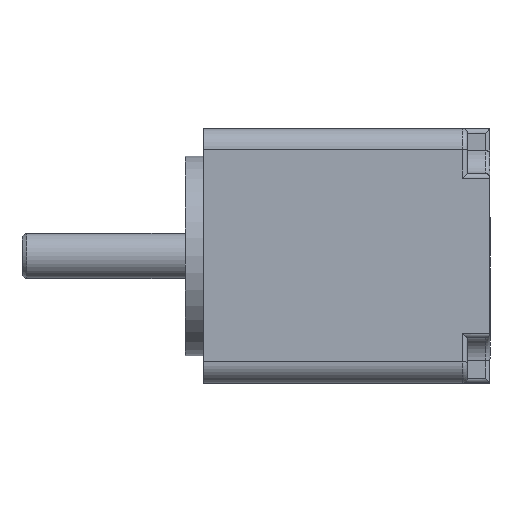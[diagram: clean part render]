
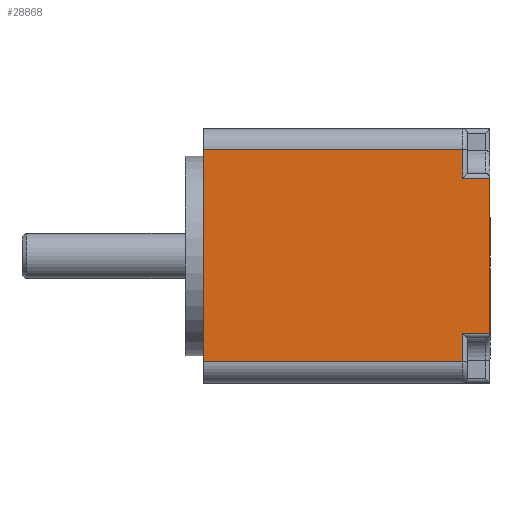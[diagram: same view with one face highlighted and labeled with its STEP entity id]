
A CAD part, top view. The second image highlights one B-rep face of the part: STEP entity #28868.
In plain terms, the highlighted planar face has unit normal (0, 0, 1).
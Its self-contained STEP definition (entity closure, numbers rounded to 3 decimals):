
#22119=CARTESIAN_POINT('',(0.,11.7,14.));
#22120=VERTEX_POINT('',#22119);
#22128=CARTESIAN_POINT('',(28.55,11.7,14.));
#22129=VERTEX_POINT('',#22128);
#22130=CARTESIAN_POINT('',(0.,11.7,14.));
#22131=DIRECTION('',(1.,0.,0.));
#22132=VECTOR('',#22131,28.55);
#22133=LINE('',#22130,#22132);
#22134=EDGE_CURVE('',#22120,#22129,#22133,.T.);
#22159=CARTESIAN_POINT('',(0.,-11.7,14.));
#22160=VERTEX_POINT('',#22159);
#22178=CARTESIAN_POINT('',(28.55,-11.7,14.));
#22179=VERTEX_POINT('',#22178);
#22187=CARTESIAN_POINT('',(28.55,-11.7,14.));
#22188=DIRECTION('',(-1.,0.,0.));
#22189=VECTOR('',#22188,28.55);
#22190=LINE('',#22187,#22189);
#22191=EDGE_CURVE('',#22179,#22160,#22190,.T.);
#22397=CARTESIAN_POINT('',(0.,-11.7,14.));
#22398=DIRECTION('',(0.,1.,0.));
#22399=VECTOR('',#22398,23.4);
#22400=LINE('',#22397,#22399);
#22401=EDGE_CURVE('',#22160,#22120,#22400,.T.);
#28327=CARTESIAN_POINT('',(31.55,8.55,14.));
#28328=VERTEX_POINT('',#28327);
#28335=CARTESIAN_POINT('',(31.55,-8.55,14.));
#28336=VERTEX_POINT('',#28335);
#28337=CARTESIAN_POINT('',(31.55,8.55,14.));
#28338=DIRECTION('',(0.,-1.,0.));
#28339=VECTOR('',#28338,17.1);
#28340=LINE('',#28337,#28339);
#28341=EDGE_CURVE('',#28328,#28336,#28340,.T.);
#28829=CARTESIAN_POINT('',(15.775,0.,14.));
#28830=DIRECTION('',(0.,1.,0.));
#28831=DIRECTION('',(0.,-0.,1.));
#28832=AXIS2_PLACEMENT_3D('',#28829,#28831,#28830);
#28833=PLANE('',#28832);
#28834=CARTESIAN_POINT('',(28.55,-8.55,14.));
#28835=VERTEX_POINT('',#28834);
#28836=CARTESIAN_POINT('',(28.55,-11.7,14.));
#28837=DIRECTION('',(0.,1.,0.));
#28838=VECTOR('',#28837,3.15);
#28839=LINE('',#28836,#28838);
#28840=EDGE_CURVE('',#22179,#28835,#28839,.T.);
#28841=ORIENTED_EDGE('E2663',*,*,#28840,.T.);
#28842=CARTESIAN_POINT('',(28.55,-8.55,14.));
#28843=DIRECTION('',(1.,0.,0.));
#28844=VECTOR('',#28843,3.);
#28845=LINE('',#28842,#28844);
#28846=EDGE_CURVE('',#28835,#28336,#28845,.T.);
#28847=ORIENTED_EDGE('E2664',*,*,#28846,.T.);
#28848=ORIENTED_EDGE('E2664',*,*,#28341,.F.);
#28849=CARTESIAN_POINT('',(28.55,8.55,14.));
#28850=VERTEX_POINT('',#28849);
#28851=CARTESIAN_POINT('',(31.55,8.55,14.));
#28852=DIRECTION('',(-1.,0.,0.));
#28853=VECTOR('',#28852,3.);
#28854=LINE('',#28851,#28853);
#28855=EDGE_CURVE('',#28328,#28850,#28854,.T.);
#28856=ORIENTED_EDGE('E2665',*,*,#28855,.T.);
#28857=CARTESIAN_POINT('',(28.55,8.55,14.));
#28858=DIRECTION('',(0.,1.,0.));
#28859=VECTOR('',#28858,3.15);
#28860=LINE('',#28857,#28859);
#28861=EDGE_CURVE('',#28850,#22129,#28860,.T.);
#28862=ORIENTED_EDGE('E2666',*,*,#28861,.T.);
#28863=ORIENTED_EDGE('E2666',*,*,#22134,.F.);
#28864=ORIENTED_EDGE('E2666',*,*,#22401,.F.);
#28865=ORIENTED_EDGE('E2666',*,*,#22191,.F.);
#28866=EDGE_LOOP('',(#28841,#28847,#28848,#28856,#28862,#28863,#28864,#28865));
#28867=FACE_OUTER_BOUND('',#28866,.T.);
#28868=ADVANCED_FACE('F767',(#28867),#28833,.T.);
